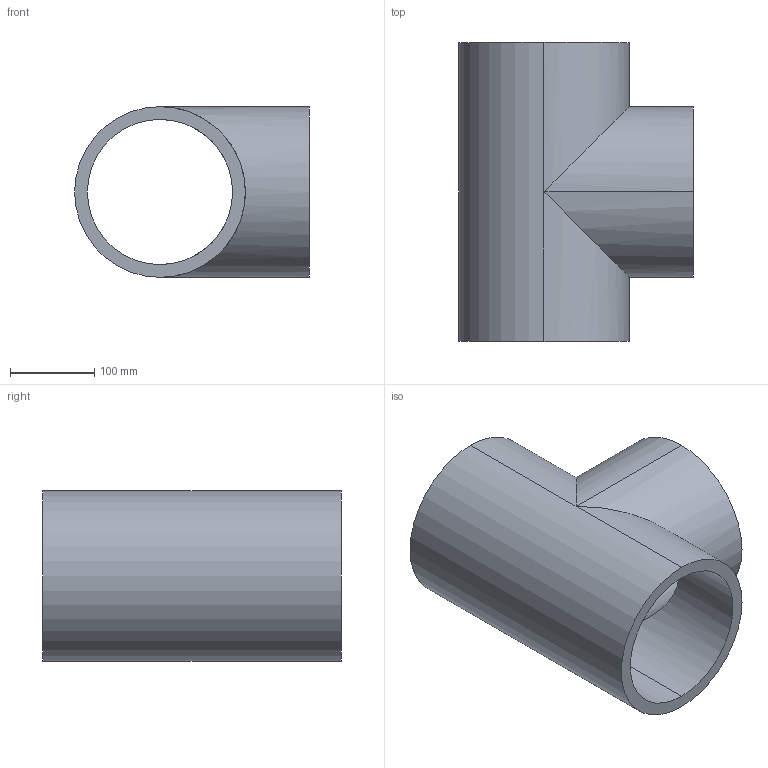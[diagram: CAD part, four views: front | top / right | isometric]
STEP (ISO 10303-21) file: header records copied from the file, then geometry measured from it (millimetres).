
FILE_DESCRIPTION (( 'STEP AP203' ), '1' );
FILE_NAME ('E7WWW8.0.STEP', '2018-05-02T17:54:20', ( 'vneprd' ), ( 'Microsoft' ), 'SwSTEP 2.0', 'SolidWorks 2014', '' );
FILE_SCHEMA (( 'CONFIG_CONTROL_DESIGN' ));
Length unit declared in the file: inch
Products named in the file (1): E7WWW8.0
Bounding box: 279.4 x 355.6 x 203.2 mm (x, y, z)
Volume: 3715109.9 mm3; surface area: 514699.9 mm2
Topology: 1 solids, 1 shells, 13 faces, 28 edges, 16 vertices
Faces by surface type: cylinder 10, plane 3
Entity records: 437 total; most frequent: CARTESIAN_POINT 70, DIRECTION 64, ORIENTED_EDGE 56, EDGE_CURVE 28, AXIS2_PLACEMENT_3D 26, VERTEX_POINT 16, EDGE_LOOP 16, ADVANCED_FACE 13
